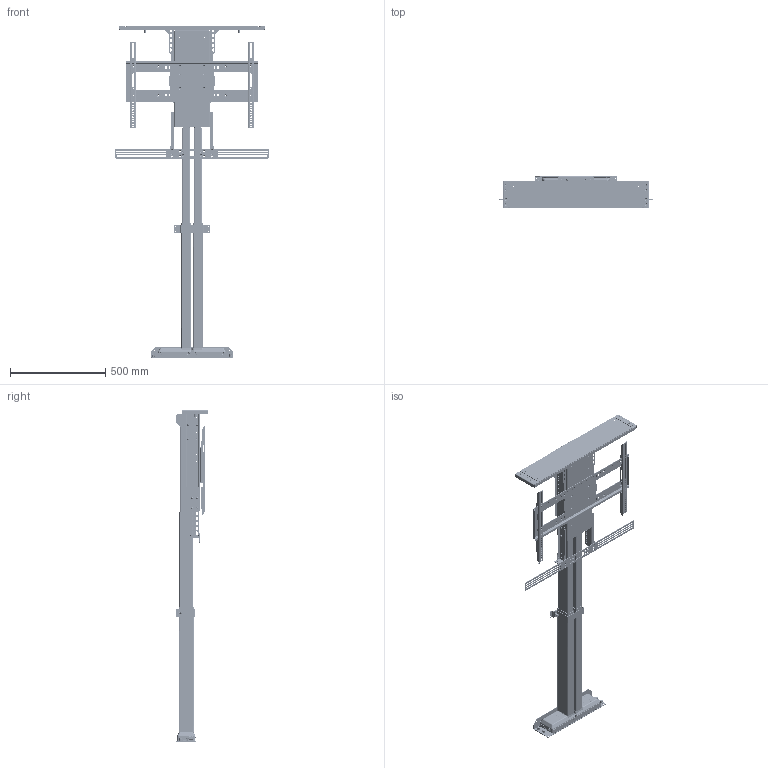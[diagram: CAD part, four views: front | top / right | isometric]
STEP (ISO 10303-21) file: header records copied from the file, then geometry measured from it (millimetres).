
FILE_DESCRIPTION(/* description */ ('STEP AP242','CAx-IF Rec.Pracs.---Representation and Presentation of Product Manufacturing Information (PMI)---4.0---2014-10-13','CAx-IF Rec.Pracs.---3D Tessellated Geometry---0.4---2014-09-14','2;1'),/* implementation_level */ '2;1');
FILE_NAME(/* name */ '654aa20dc3dc330f76ed9578',/* time_stamp */ '2023-11-07T20:46:08Z',/* author */ (''),/* organization */ (''),/* preprocessor_version */ 'ST-DEVELOPER v19.4',/* originating_system */ ' ',/* authorisation */ ' ');
FILE_SCHEMA (('AP242_MANAGED_MODEL_BASED_3D_ENGINEERING_MIM_LF { 1 0 10303 442 1 1 4 }'));
Products named in the file (59): DL-65 (HD); WDS8151-215; Socket button head screw M6x1 x 12; Hex socket countersunk head screw M6x1 x 12; Socket button head screw M6x1 x 16; L-65x SBM Bracket; ULS-NX-032 - HD Quick Release LC Mount; Lift Column H <2>; L45 LC Motor Housing; L45 LC Inner Profile; L45 LC Middle Profile; L65 PS Adapter; ULS-NX-031 - HD QUICK RELEASE BASE MOUNT w/ PEMS <1>; ULS-NX-031 - HD QUICK RELEASE BASE MOUNT; PEM FHS-M6-12  ; ULS-NX-030 - HD REAR SUPPORT w/ PEMs <1>; ULS-NX-030 - HD Rear Support; ULS-NX-029 - HD Column Clamp; ULS-NX-033 - HD LOWER ACCESSORY BRACKET w/ PEMS <1>; ULS-NX-033 - HD LOWER ACCESSORY BRACKET; PEM CLS-M6-1  ; Lift Column H <1>; ULS-NX-033 - HD LOWER ACCESSORY BRACKET w/ PEMS <2>; SS Fixed Short - Rev B2 <1>; PEM CLS-M6-1; PEM Nut F-M4-2; PEM Nut CLSS-M5-1; PS Screen Support Fixed 01; SBP & VMB <1>; PZ Pan head screw M5x0.80 x 25; ULS-NX-118 - UL VMB WELDMENT <1>; 90107A012; PEM BSO-632-10  ZI; VMB Washer; ULS-NX-020 - UL SCREEN LOCK; Socket button head cap screw #6-32 x 0.188; ULS-NX-019 - UL LEVEL ADJUSTMENT PLATE; ULS-NX-018 - UL VERICAL MOUNTING BAR; ULS-NX-118 - UL VMB WELDMENT <2>; ULS-NX-017 - UL SCREEN BACK PLATE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
Assembly tree (219 placements, depth 5):
  DL-65 (HD)
    WDS8151-215  x6
    Socket button head screw M6x1 x 12  x16
    Hex socket countersunk head screw M6x1 x 12  x17
    Hex socket countersunk head screw M6x1 x 12  x2
    Socket button head screw M6x1 x 16  x8
    L-65x SBM Bracket
    ULS-NX-032 - HD Quick Release LC Mount
    Lift Column H <2>
      L45 LC Motor Housing
      L45 LC Inner Profile
      L45 LC Middle Profile
    L65 PS Adapter
    ULS-NX-031 - HD QUICK RELEASE BASE MOUNT w/ PEMS <1>
      ULS-NX-031 - HD QUICK RELEASE BASE MOUNT
      PEM FHS-M6-12    x4
    ULS-NX-030 - HD REAR SUPPORT w/ PEMs <1>
      PEM FHS-M6-12    x2
      ULS-NX-030 - HD Rear Support
    ULS-NX-029 - HD Column Clamp
    ULS-NX-033 - HD LOWER ACCESSORY BRACKET w/ PEMS <1>
      ULS-NX-033 - HD LOWER ACCESSORY BRACKET
      PEM CLS-M6-1    x4
    Lift Column H <1>
      L45 LC Inner Profile
      L45 LC Middle Profile
      L45 LC Motor Housing
    ULS-NX-033 - HD LOWER ACCESSORY BRACKET w/ PEMS <2>
      PEM CLS-M6-1    x4
      ULS-NX-033 - HD LOWER ACCESSORY BRACKET
    SS Fixed Short - Rev B2 <1>
      PEM CLS-M6-1  x42
      PEM Nut F-M4-2  x8
      PEM Nut CLSS-M5-1  x2
      PS Screen Support Fixed 01
      L65 PS Adapter
    SBP & VMB <1>
      PZ Pan head screw M5x0.80 x 25  x2
      ULS-NX-118 - UL VMB WELDMENT <1>
        90107A012  x2
        PEM BSO-632-10  ZI  x2
        VMB Washer  x4
        ULS-NX-020 - UL SCREEN LOCK
        Socket button head cap screw #6-32 x 0.188  x2
        ULS-NX-019 - UL LEVEL ADJUSTMENT PLATE
        ULS-NX-018 - UL VERICAL MOUNTING BAR
      ULS-NX-118 - UL VMB WELDMENT <2>
        90107A012  x2
        PEM BSO-632-10  ZI  x2
        ULS-NX-018 - UL VERICAL MOUNTING BAR
        Socket button head cap screw #6-32 x 0.188  x2
        ULS-NX-019 - UL LEVEL ADJUSTMENT PLATE
        VMB Washer  x4
        ULS-NX-020 - UL SCREEN LOCK
      ULS-NX-017 - UL SCREEN BACK PLATE
    L-65 HD Lid Plate Assembly w/ Lid Supports <2>
      Hex socket countersunk head screw M6x1 x 12  x4
      ULS-NX-039 - ULS HD LID SUPPORT w/ PEMs <2>
        ULS-NX-039 -- ULS HD LID SUPPORT
        PEM CLS-M6-00    x2
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Bounding box: 812.8 x 170.28 x 1745.93 mm (x, y, z)
Volume: 16889373 mm3; surface area: 3128843.4 mm2
Topology: 204 solids, 204 shells, 12708 faces, 33321 edges, 21525 vertices
Faces by surface type: plane 8068, cylinder 2845, cone 938, bspline 518, torus 277, sphere 62
Full cylindrical faces by diameter (mm): 2.642 x4, 3.505 x4, 4 x8, 4.496 x6, 4.6 x4, 4.917 x64, 5 x36, 5.026 x4, 5.08 x4, 5.277 x8, 5.3 x12, 5.385 x12, 5.41 x8, 5.6 x8, 5.944 x4, 5.994 x4, 6 x93, 6.35 x28, 6.4 x20, 6.6 x18, 6.655 x4, 6.934 x2, 7.112 x2, 7.37 x16, 7.493 x2, 7.925 x2, 8.128 x34, 8.509 x2, 8.64 x2, 8.73 x60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
Entity records: 111154 total; most frequent: CARTESIAN_POINT 21371, DIRECTION 17513, ORIENTED_EDGE 16988, EDGE_CURVE 8494, AXIS2_PLACEMENT_3D 5975, VERTEX_POINT 5690, LINE 5563, VECTOR 5563
